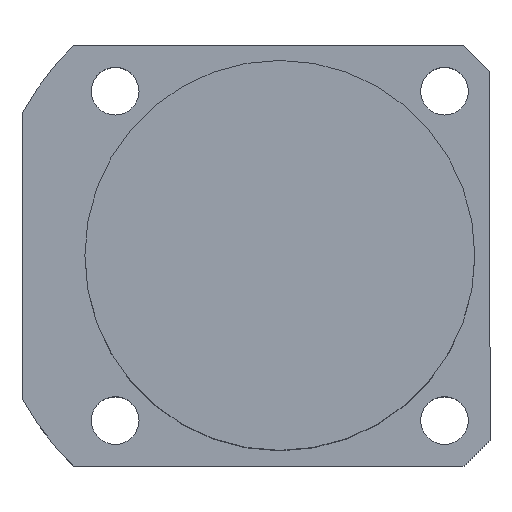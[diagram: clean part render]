
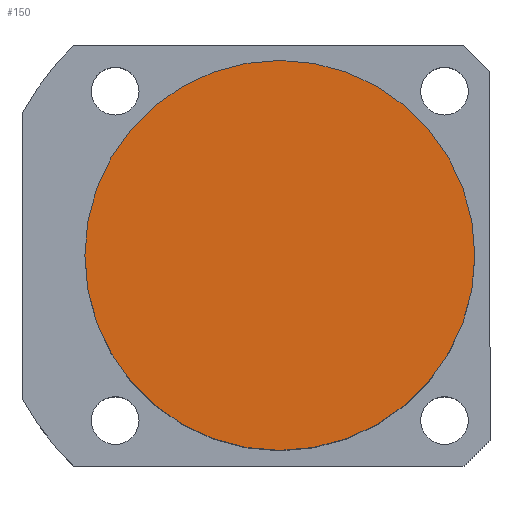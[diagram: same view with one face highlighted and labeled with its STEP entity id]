
A CAD part, top view. The second image highlights one B-rep face of the part: STEP entity #150.
In plain terms, the highlighted planar face has unit normal (0, 0, 1).
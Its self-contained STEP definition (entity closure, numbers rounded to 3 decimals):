
#63 = CARTESIAN_POINT ( 'NONE',  ( 0., 0., 74.5 ) ) ;
#150 = ADVANCED_FACE ( 'NONE', ( #445 ), #173, .T. ) ;
#173 = PLANE ( 'NONE',  #1487 ) ;
#203 = DIRECTION ( 'NONE',  ( 1., 0., 0. ) ) ;
#219 = AXIS2_PLACEMENT_3D ( 'NONE', #63, #783, #203 ) ;
#300 = ORIENTED_EDGE ( 'NONE', *, *, #759, .T. ) ;
#445 = FACE_OUTER_BOUND ( 'NONE', #1097, .T. ) ;
#466 = CIRCLE ( 'NONE', #1225, 45. ) ;
#561 = DIRECTION ( 'NONE',  ( 1., 0., 0. ) ) ;
#591 = CARTESIAN_POINT ( 'NONE',  ( 0., 0., 74.5 ) ) ;
#650 = CARTESIAN_POINT ( 'NONE',  ( 45., 0., 74.5 ) ) ;
#653 = CIRCLE ( 'NONE', #219, 45. ) ;
#759 = EDGE_CURVE ( 'NONE', #930, #973, #653, .T. ) ;
#783 = DIRECTION ( 'NONE',  ( 0., 0., 1. ) ) ;
#841 = DIRECTION ( 'NONE',  ( 0., 0., 1. ) ) ;
#863 = CARTESIAN_POINT ( 'NONE',  ( 0., 0., 74.5 ) ) ;
#869 = DIRECTION ( 'NONE',  ( 1., 0., 0. ) ) ;
#930 = VERTEX_POINT ( 'NONE', #1218 ) ;
#973 = VERTEX_POINT ( 'NONE', #650 ) ;
#1001 = DIRECTION ( 'NONE',  ( 0., 0., 1. ) ) ;
#1097 = EDGE_LOOP ( 'NONE', ( #300, #1256 ) ) ;
#1218 = CARTESIAN_POINT ( 'NONE',  ( -45., 0., 74.5 ) ) ;
#1225 = AXIS2_PLACEMENT_3D ( 'NONE', #591, #1001, #869 ) ;
#1256 = ORIENTED_EDGE ( 'NONE', *, *, #1663, .T. ) ;
#1487 = AXIS2_PLACEMENT_3D ( 'NONE', #863, #841, #561 ) ;
#1663 = EDGE_CURVE ( 'NONE', #973, #930, #466, .T. ) ;
